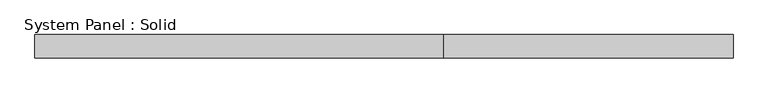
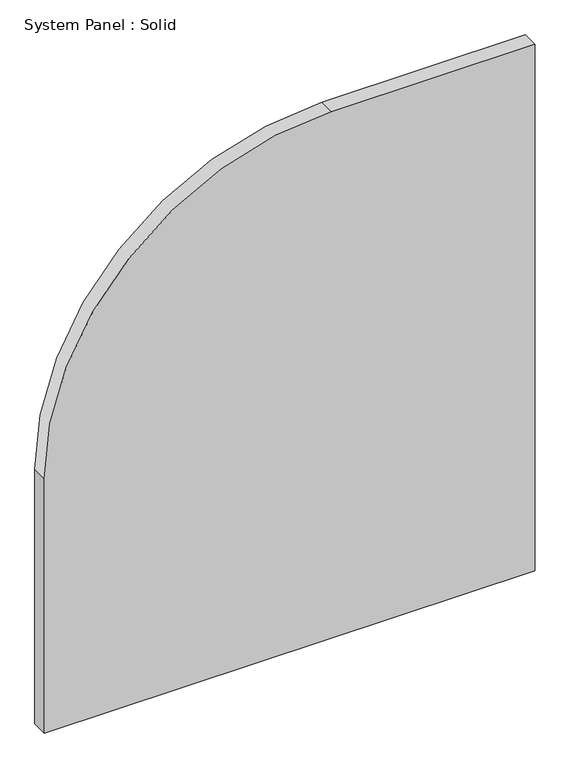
"""IFC4 building model written with IfcOpenShell, lengths in millimetres: plate geometry, System Panel : Solid."""

from ifc_helpers import new_model, si_unit, point, frame, frame_2d, origin, place, context, project, spatial, polyline, circle_curve, trimmed, segment, composite_curve, outline, extrude, source, transform, mapped, element, save


def system_panel_solid_93680b79(model_context):
    return source(origin(), model_context, "Body", "SweptSolid", [
        extrude(outline(composite_curve([segment(polyline([(0.0, -525.0000002), (0.0, 525.0000002), (1190.0, 525.0000002), (1190.0, 89.9999998)]), True, "CONTINUOUS"), segment(trimmed(circle_curve(frame_2d((575.0, 89.9999998)), 615.0), [point((1190.0, 89.9999998))], [point((575.0, -525.0000002))], False, "CARTESIAN"), True, "CONTINUOUS"), segment(polyline([(575.0, -525.0000002), (0.0, -525.0000002)]), True, "CONTINUOUS")], self_intersect=False)), frame((0.0, -2.5, 0.0), z_axis=(0.0, 1.0, 0.0), x_axis=(0.0, 0.0, 1.0)), (0.0, 0.0, 1.0), 35.0),
    ])


if __name__ == "__main__":
    model = new_model("IFC4")
    model_context = context("Model", 3, world=origin())
    ifc_project = project(units=[si_unit("LENGTHUNIT", "METRE", prefix="MILLI")], contexts=[model_context])
    site = spatial("IfcSite", under=ifc_project)
    building = spatial("IfcBuilding", under=site)
    placement = place(None, origin())
    system_panel_solid_shape = system_panel_solid_93680b79(model_context)
    element("IfcPlate", 1, ObjectType="System Panel : Solid", at=placement, inside=building, context=model_context, shape_type="MappedRepresentation", body=[
        mapped(system_panel_solid_shape, transform((0.0, 0.0, 0.0), x_axis=(1.0, 0.0, 0.0), y_axis=(0.0, 1.0, 0.0), z_axis=(0.0, 0.0, 1.0))),
    ])
    save(model, "model.ifc")
